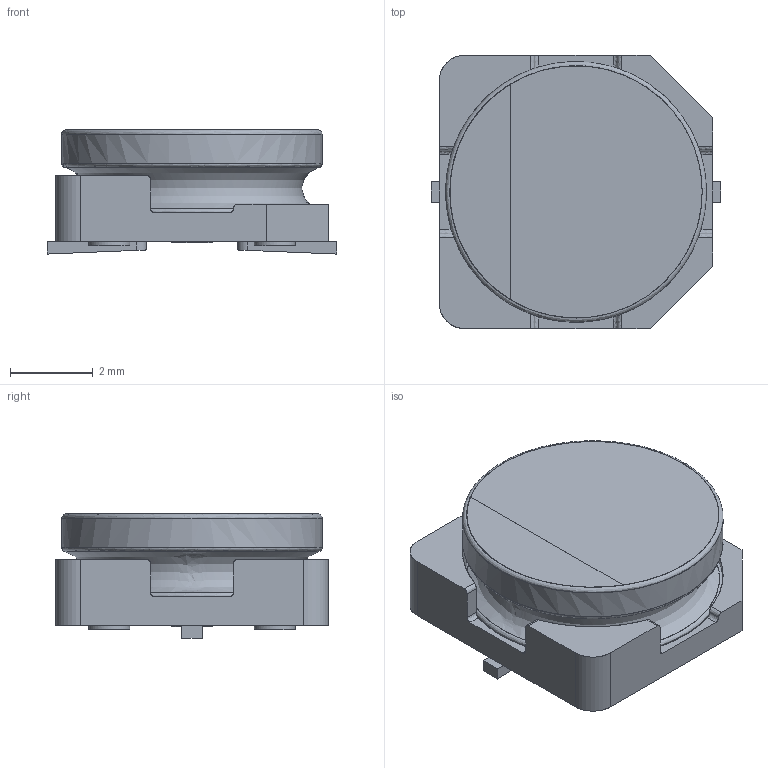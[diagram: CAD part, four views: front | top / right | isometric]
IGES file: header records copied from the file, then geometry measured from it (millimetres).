
Start section: JAMA-IS VERSION  1.0
Bounding box: 7 x 6.6 x 3 mm (x, y, z)
Surface area: 243.8 mm2 (no closed solid volume)
Topology: 0 solids, 0 shells, 74 faces, 994 edges, 976 vertices
Faces by surface type: bspline 74
